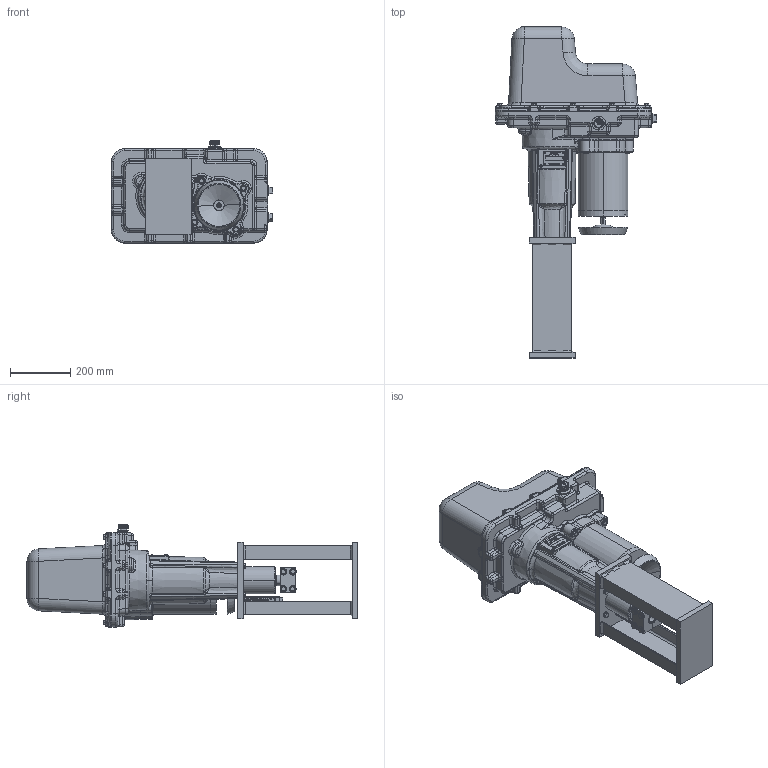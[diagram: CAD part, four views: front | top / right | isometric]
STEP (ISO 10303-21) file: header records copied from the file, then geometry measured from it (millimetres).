
FILE_DESCRIPTION (( 'STEP AP203' ), '1' );
FILE_NAME ('18-2960-01.STEP', '2011-06-24T17:20:47', ( '' ), ( '' ), 'SwSTEP 2.0', 'SolidWorks 2009', '' );
FILE_SCHEMA (( 'CONFIG_CONTROL_DESIGN' ));
Products named in the file (1): 18-2960-01
Bounding box: 535.52 x 1101.72 x 339.56 mm (x, y, z)
Surface area: 1814777.5 mm2 (no closed solid volume)
Topology: 0 solids, 131 shells, 1704 faces, 7468 edges, 5734 vertices
Faces by surface type: plane 551, cylinder 518, bspline 387, cone 104, torus 86, sphere 58
Entity records: 168648 total; most frequent: CARTESIAN_POINT 113519, ORIENTED_EDGE 10506, DIRECTION 9931, EDGE_CURVE 7452, VERTEX_POINT 5734, LINE 3461, VECTOR 3461, AXIS2_PLACEMENT_3D 3235
